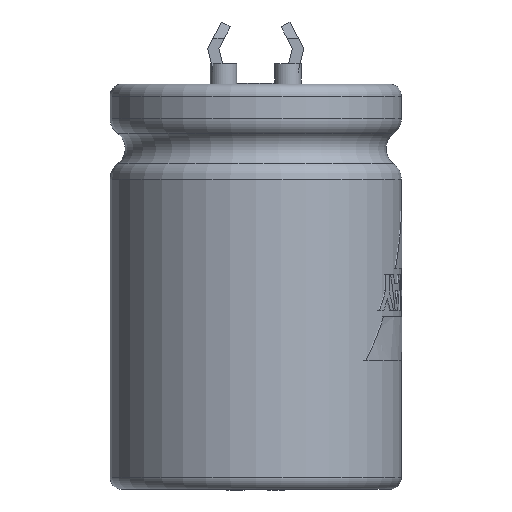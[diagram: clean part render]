
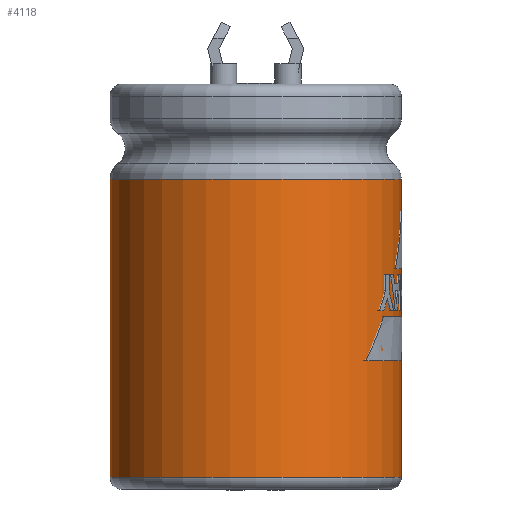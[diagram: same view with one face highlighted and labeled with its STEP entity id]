
A CAD part, left-side view. The second image highlights one B-rep face of the part: STEP entity #4118.
In plain terms, the highlighted cylindrical face has radius 11.5 mm (diameter 23 mm), a full revolution.
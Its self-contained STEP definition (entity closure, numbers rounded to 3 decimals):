
#4050 = TOROIDAL_SURFACE('',#4051,10.,1.5);
#4051 = AXIS2_PLACEMENT_3D('',#4052,#4053,#4054);
#4052 = CARTESIAN_POINT('',(0.,0.,-6.55));
#4053 = DIRECTION('',(0.,0.,1.));
#4054 = DIRECTION('',(1.,0.,0.));
#4066 = EDGE_CURVE('',#4067,#4067,#4069,.T.);
#4067 = VERTEX_POINT('',#4068);
#4068 = CARTESIAN_POINT('',(11.5,0.,-6.55));
#4069 = SURFACE_CURVE('',#4070,(#4075,#4082),.PCURVE_S1.);
#4070 = CIRCLE('',#4071,11.5);
#4071 = AXIS2_PLACEMENT_3D('',#4072,#4073,#4074);
#4072 = CARTESIAN_POINT('',(0.,0.,-6.55));
#4073 = DIRECTION('',(0.,0.,1.));
#4074 = DIRECTION('',(1.,0.,0.));
#4075 = PCURVE('',#4050,#4076);
#4076 = DEFINITIONAL_REPRESENTATION('',(#4077),#4081);
#4077 = LINE('',#4078,#4079);
#4078 = CARTESIAN_POINT('',(0.,6.283));
#4079 = VECTOR('',#4080,1.);
#4080 = DIRECTION('',(1.,0.));
#4081 = ( GEOMETRIC_REPRESENTATION_CONTEXT(2) 
PARAMETRIC_REPRESENTATION_CONTEXT() REPRESENTATION_CONTEXT('2D SPACE',''
  ) );
#4082 = PCURVE('',#4083,#4088);
#4083 = CYLINDRICAL_SURFACE('',#4084,11.5);
#4084 = AXIS2_PLACEMENT_3D('',#4085,#4086,#4087);
#4085 = CARTESIAN_POINT('',(0.,0.,-30.1));
#4086 = DIRECTION('',(0.,0.,1.));
#4087 = DIRECTION('',(1.,0.,0.));
#4088 = DEFINITIONAL_REPRESENTATION('',(#4089),#4093);
#4089 = LINE('',#4090,#4091);
#4090 = CARTESIAN_POINT('',(0.,23.55));
#4091 = VECTOR('',#4092,1.);
#4092 = DIRECTION('',(1.,0.));
#4093 = ( GEOMETRIC_REPRESENTATION_CONTEXT(2) 
PARAMETRIC_REPRESENTATION_CONTEXT() REPRESENTATION_CONTEXT('2D SPACE',''
  ) );
#4118 = ADVANCED_FACE('',(#4119),#4083,.T.);
#4119 = FACE_BOUND('',#4120,.T.);
#4120 = EDGE_LOOP('',(#4121,#4150,#4171,#4172));
#4121 = ORIENTED_EDGE('',*,*,#4122,.T.);
#4122 = EDGE_CURVE('',#4123,#4123,#4125,.T.);
#4123 = VERTEX_POINT('',#4124);
#4124 = CARTESIAN_POINT('',(11.5,0.,-30.1));
#4125 = SURFACE_CURVE('',#4126,(#4131,#4138),.PCURVE_S1.);
#4126 = CIRCLE('',#4127,11.5);
#4127 = AXIS2_PLACEMENT_3D('',#4128,#4129,#4130);
#4128 = CARTESIAN_POINT('',(0.,0.,-30.1));
#4129 = DIRECTION('',(0.,0.,1.));
#4130 = DIRECTION('',(1.,0.,0.));
#4131 = PCURVE('',#4083,#4132);
#4132 = DEFINITIONAL_REPRESENTATION('',(#4133),#4137);
#4133 = LINE('',#4134,#4135);
#4134 = CARTESIAN_POINT('',(0.,0.));
#4135 = VECTOR('',#4136,1.);
#4136 = DIRECTION('',(1.,0.));
#4137 = ( GEOMETRIC_REPRESENTATION_CONTEXT(2) 
PARAMETRIC_REPRESENTATION_CONTEXT() REPRESENTATION_CONTEXT('2D SPACE',''
  ) );
#4138 = PCURVE('',#4139,#4144);
#4139 = TOROIDAL_SURFACE('',#4140,10.55,0.95);
#4140 = AXIS2_PLACEMENT_3D('',#4141,#4142,#4143);
#4141 = CARTESIAN_POINT('',(0.,0.,-30.1));
#4142 = DIRECTION('',(0.,0.,1.));
#4143 = DIRECTION('',(1.,0.,0.));
#4144 = DEFINITIONAL_REPRESENTATION('',(#4145),#4149);
#4145 = LINE('',#4146,#4147);
#4146 = CARTESIAN_POINT('',(0.,6.283));
#4147 = VECTOR('',#4148,1.);
#4148 = DIRECTION('',(1.,0.));
#4149 = ( GEOMETRIC_REPRESENTATION_CONTEXT(2) 
PARAMETRIC_REPRESENTATION_CONTEXT() REPRESENTATION_CONTEXT('2D SPACE',''
  ) );
#4150 = ORIENTED_EDGE('',*,*,#4151,.T.);
#4151 = EDGE_CURVE('',#4123,#4067,#4152,.T.);
#4152 = SEAM_CURVE('',#4153,(#4157,#4164),.PCURVE_S1.);
#4153 = LINE('',#4154,#4155);
#4154 = CARTESIAN_POINT('',(11.5,0.,-30.1));
#4155 = VECTOR('',#4156,1.);
#4156 = DIRECTION('',(0.,0.,1.));
#4157 = PCURVE('',#4083,#4158);
#4158 = DEFINITIONAL_REPRESENTATION('',(#4159),#4163);
#4159 = LINE('',#4160,#4161);
#4160 = CARTESIAN_POINT('',(0.,0.));
#4161 = VECTOR('',#4162,1.);
#4162 = DIRECTION('',(0.,1.));
#4163 = ( GEOMETRIC_REPRESENTATION_CONTEXT(2) 
PARAMETRIC_REPRESENTATION_CONTEXT() REPRESENTATION_CONTEXT('2D SPACE',''
  ) );
#4164 = PCURVE('',#4083,#4165);
#4165 = DEFINITIONAL_REPRESENTATION('',(#4166),#4170);
#4166 = LINE('',#4167,#4168);
#4167 = CARTESIAN_POINT('',(6.283,0.));
#4168 = VECTOR('',#4169,1.);
#4169 = DIRECTION('',(0.,1.));
#4170 = ( GEOMETRIC_REPRESENTATION_CONTEXT(2) 
PARAMETRIC_REPRESENTATION_CONTEXT() REPRESENTATION_CONTEXT('2D SPACE',''
  ) );
#4171 = ORIENTED_EDGE('',*,*,#4066,.F.);
#4172 = ORIENTED_EDGE('',*,*,#4151,.F.);
